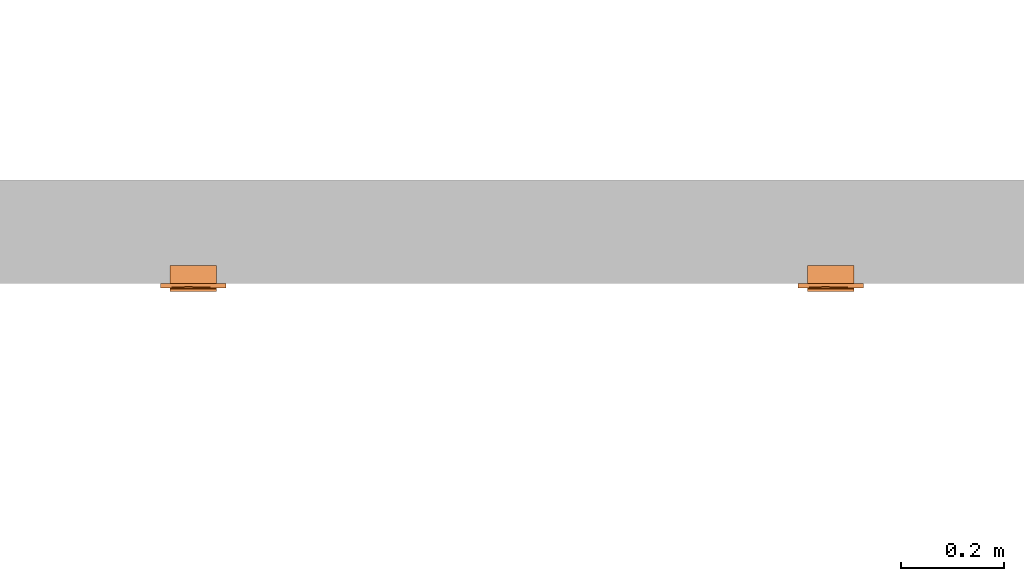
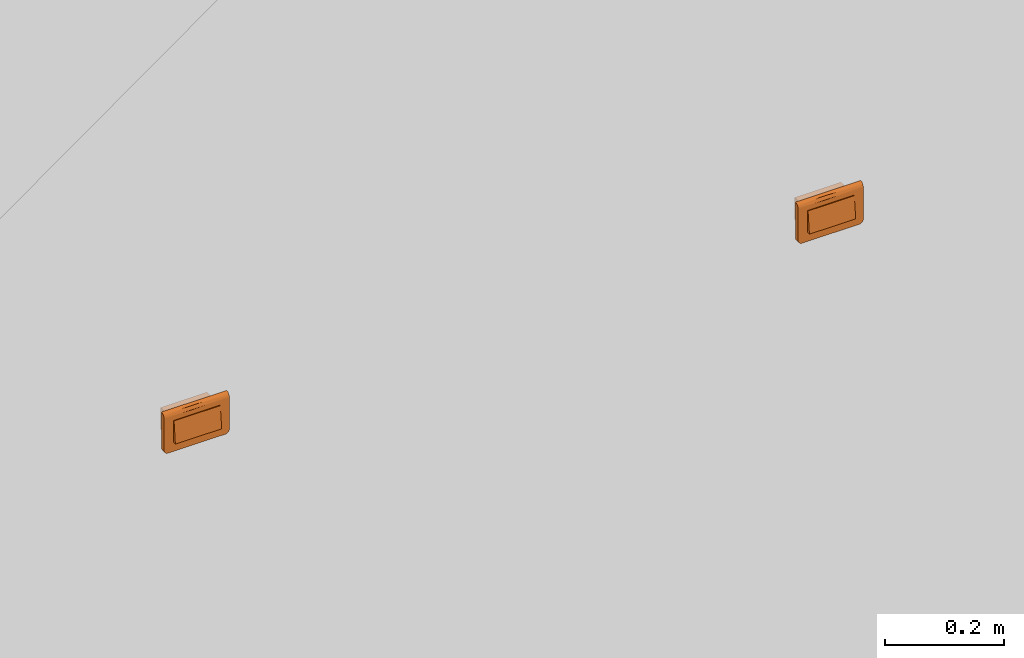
# One storey, part 147 of 197: 2 proxies.
"""IFC2X3 building model written with IfcOpenShell, lengths in metres."""

from ifc_helpers import new_model, entity, si_unit, converted_unit, direction, frame, origin, place, context, subcontext, project, spatial, faceted_brep, source, transform, mapped, material, material_list, type_object, type_shapes, element, save


model = new_model("IFC2X3")

# Units and contexts
model_context = context("Model", 3, precision=1e-05, world=origin(), true_north=direction((6.123031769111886e-17, 1.0)))
body_context = subcontext(model_context, "Body", "Model", "MODEL_VIEW")
ifc_project = project(units=[si_unit("LENGTHUNIT", "METRE"), converted_unit("PLANEANGLEUNIT", "DEGREE", entity("IfcPlaneAngleMeasure", 0.017453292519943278), si_unit("PLANEANGLEUNIT", "RADIAN"), dimensions=[0, 0, 0, 0, 0, 0, 0]), si_unit("AREAUNIT", "SQUARE_METRE")], contexts=[model_context])

# Site, building, storey
site_placement = place(None, origin())
site = spatial("IfcSite", under=ifc_project, at=site_placement, Name="Default", CompositionType="ELEMENT")
building_placement = place(site_placement, origin())
building = spatial("IfcBuilding", under=site, at=building_placement, CompositionType="ELEMENT")
storey_placement = place(building_placement, origin())
storey = spatial("IfcBuildingStorey", under=building, at=storey_placement, Name="Niveau 0", CompositionType="ELEMENT", Elevation=0.0)

# Proxies
ifc_material_1 = material(Name="<Unnamed>")
ifc_material_2 = material(Name="BETCE-DOIGT-BLANC")
ifc_material_3 = material(Name="BETCE-ENJOLIVEUR-BLANC")
ifc_material_list = material_list([ifc_material_1, ifc_material_2, ifc_material_3])
building_element_proxy_type_1 = type_object("IfcBuildingElementProxyType", Name="Tableau commande 1x4 modules encastré:3 SA + 1 BP", PredefinedType="NOTDEFINED", material=ifc_material_list)
shared_shape_1 = source(origin(), body_context, "Body", "Brep", [
    faceted_brep([(0.04499999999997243, 0.0, 0.022499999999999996), (0.04499999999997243, 0.03499999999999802, 0.022499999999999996), (0.02249999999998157, 0.03499999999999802, 0.022499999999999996), (0.02249999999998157, 0.0, 0.022499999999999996), (0.04499999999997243, 0.0, -0.022500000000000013), (0.02249999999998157, 0.0, -0.022500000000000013), (0.02249999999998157, 0.03499999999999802, -0.022500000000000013), (0.04499999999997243, 0.03499999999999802, -0.022500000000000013)], [[[0, 1, 2, 3]], [[4, 5, 6, 7]], [[1, 0, 4, 7]], [[2, 1, 7, 6]], [[3, 2, 6, 5]], [[0, 3, 5, 4]]]),
    faceted_brep([(0.02249999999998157, 0.0, 0.022499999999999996), (0.02249999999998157, 0.034999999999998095, 0.022499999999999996), (0.0, 0.034999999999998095, 0.022499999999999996), (0.0, 0.0, 0.022499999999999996), (0.02249999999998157, 0.0, -0.022500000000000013), (0.0, 0.0, -0.022500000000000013), (0.0, 0.034999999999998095, -0.022500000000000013), (0.02249999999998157, 0.034999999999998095, -0.022500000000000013)], [[[0, 1, 2, 3]], [[4, 5, 6, 7]], [[1, 0, 4, 7]], [[2, 1, 7, 6]], [[3, 2, 6, 5]], [[0, 3, 5, 4]]]),
    faceted_brep([(0.0, 0.0, 0.022499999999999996), (0.0, 0.034999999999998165, 0.022499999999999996), (-0.02250000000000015, 0.034999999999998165, 0.022499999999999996), (-0.02250000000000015, 0.0, 0.022499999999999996), (0.0, 0.0, -0.022500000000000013), (-0.02250000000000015, 0.0, -0.022500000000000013), (-0.02250000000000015, 0.034999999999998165, -0.022500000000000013), (0.0, 0.034999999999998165, -0.022500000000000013)], [[[0, 1, 2, 3]], [[4, 5, 6, 7]], [[1, 0, 4, 7]], [[2, 1, 7, 6]], [[3, 2, 6, 5]], [[0, 3, 5, 4]]]),
    faceted_brep([(-0.02250000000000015, 0.0, 0.022499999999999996), (-0.02250000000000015, 0.034999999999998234, 0.022499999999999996), (-0.044999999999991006, 0.034999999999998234, 0.022499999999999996), (-0.044999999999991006, 0.0, 0.022499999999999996), (-0.02250000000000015, 0.0, -0.022500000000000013), (-0.044999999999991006, 0.0, -0.022500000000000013), (-0.044999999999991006, 0.034999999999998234, -0.022500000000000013), (-0.02250000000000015, 0.034999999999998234, -0.022500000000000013)], [[[0, 1, 2, 3]], [[4, 5, 6, 7]], [[1, 0, 4, 7]], [[2, 1, 7, 6]], [[3, 2, 6, 5]], [[0, 3, 5, 4]]]),
    faceted_brep([(0.022500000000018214, -0.010500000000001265, 0.022499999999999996), (0.02250000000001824, -0.015000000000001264, -0.022500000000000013), (0.0450000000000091, -0.01500000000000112, -0.022500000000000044), (0.045000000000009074, -0.010500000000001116, 0.022499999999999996), (0.02250000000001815, 0.0, -0.022500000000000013), (0.02250000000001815, 0.0, 0.022499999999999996), (0.045000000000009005, 0.0, 0.022499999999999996), (0.045000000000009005, 0.0, -0.022500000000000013)], [[[0, 1, 2, 3]], [[4, 5, 6, 7]], [[5, 4, 1, 0]], [[6, 5, 0, 3]], [[7, 6, 3, 2]], [[4, 7, 2, 1]]]),
    faceted_brep([(-0.044999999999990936, -0.010500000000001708, 0.022500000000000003), (-0.044999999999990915, -0.015000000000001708, -0.022500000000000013), (-0.022500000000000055, -0.015000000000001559, -0.022499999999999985), (-0.022500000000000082, -0.01050000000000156, 0.022499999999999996), (-0.044999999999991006, 0.0, -0.022500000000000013), (-0.044999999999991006, 0.0, 0.022499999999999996), (-0.02250000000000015, 0.0, 0.022499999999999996), (-0.02250000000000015, 0.0, -0.022500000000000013)], [[[0, 1, 2, 3]], [[4, 5, 6, 7]], [[5, 4, 1, 0]], [[6, 5, 0, 3]], [[7, 6, 3, 2]], [[4, 7, 2, 1]]]),
    faceted_brep([(0.0, -0.010500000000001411, 0.022500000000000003), (0.0, -0.015000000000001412, -0.022500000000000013), (0.022499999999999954, -0.015000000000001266, -0.022500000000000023), (0.022499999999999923, -0.010500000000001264, 0.022499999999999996), (0.0, 0.0, -0.022500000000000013), (0.0, 0.0, 0.022499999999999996), (0.02249999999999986, 0.0, 0.022499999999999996), (0.02249999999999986, 0.0, -0.022500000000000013)], [[[0, 1, 2, 3]], [[4, 5, 6, 7]], [[5, 4, 1, 0]], [[6, 5, 0, 3]], [[7, 6, 3, 2]], [[4, 7, 2, 1]]]),
    faceted_brep([(-0.02250000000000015, 0.0, -0.022500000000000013), (-0.02250000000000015, 0.0, 0.022499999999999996), (0.0, 0.0, 0.022499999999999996), (0.0, 0.0, -0.022500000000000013), (-0.022500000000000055, -0.01500000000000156, -0.022500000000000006), (-0.022500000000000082, -0.010500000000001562, 0.022499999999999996), (0.0, -0.010500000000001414, 0.022499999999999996), (0.0, -0.015000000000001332, -0.022500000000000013)], [[[0, 1, 2, 3]], [[1, 0, 4, 5]], [[2, 1, 5, 6]], [[3, 2, 6, 7]], [[0, 3, 7, 4]], [[5, 4, 7, 6]]]),
    faceted_brep([(0.06350000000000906, -0.009000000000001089, -0.03299999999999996), (0.06350000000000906, -0.009000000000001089, 0.031999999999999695), (0.045000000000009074, -0.009000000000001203, -0.022500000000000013), (0.055500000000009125, -0.009000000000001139, -0.04099999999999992), (0.05757055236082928, -0.009000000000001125, -0.04072740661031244), (0.059500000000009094, -0.009000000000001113, -0.0399282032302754), (0.061156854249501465, -0.009000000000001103, -0.03865685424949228), (0.06322740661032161, -0.00900000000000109, -0.03507055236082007), (0.04500000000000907, -0.009000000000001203, 0.022499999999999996), (-0.04499999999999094, -0.009000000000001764, 0.022499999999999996), (-0.011124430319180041, -0.009000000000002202, 0.03199999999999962), (-0.06349999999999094, -0.009000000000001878, 0.031999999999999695), (-0.04499999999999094, -0.009000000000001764, -0.022500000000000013), (-0.06349999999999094, -0.009000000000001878, -0.032999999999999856), (-0.055499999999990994, -0.00900000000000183, -0.04099999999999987), (-0.05757055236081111, -0.009000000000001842, -0.040727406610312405), (-0.059499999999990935, -0.009000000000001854, -0.039928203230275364), (-0.06115685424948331, -0.009000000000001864, -0.038656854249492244), (-0.06322740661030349, -0.009000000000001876, -0.035070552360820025), (-0.06242820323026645, -0.009000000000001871, -0.03699999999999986), (0.062428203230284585, -0.009000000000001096, -0.036999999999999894), (-0.063499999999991, 0.0, -0.03299999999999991), (-0.063499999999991, 0.0, 0.04100000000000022), (-0.044999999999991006, 0.0, 0.022499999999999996), (-0.044999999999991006, 0.0, -0.022500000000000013), (-0.05549999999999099, 0.0, -0.04099999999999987), (-0.05757055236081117, 0.0, -0.040727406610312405), (-0.05949999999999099, 0.0, -0.039928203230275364), (-0.06322740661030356, 0.0, -0.035070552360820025), (0.045000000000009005, 0.0, 0.022499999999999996), (0.011124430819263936, 0.0, 0.041000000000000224), (0.063500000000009, 0.0, 0.041000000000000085), (0.06350000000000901, 0.0, -0.03299999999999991), (0.04500000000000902, 0.0, -0.022500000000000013), (0.05550000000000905, 0.0, -0.040999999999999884), (0.057570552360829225, 0.0, -0.04072740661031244), (0.05950000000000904, 0.0, -0.0399282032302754), (0.06322740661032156, 0.0, -0.03507055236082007), (0.06115685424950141, 0.0, -0.03865685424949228), (0.06242820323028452, 0.0, -0.036999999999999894), (-0.06115685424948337, 0.0, -0.038656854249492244), (-0.062428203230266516, 0.0, -0.03699999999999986), (0.06350000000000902, -0.002329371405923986, 0.04069333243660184), (0.06350000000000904, -0.004500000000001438, 0.03979422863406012), (0.06350000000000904, -0.006363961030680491, 0.038363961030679), (0.06350000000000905, -0.007794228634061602, 0.03649999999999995), (0.06350000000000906, -0.008693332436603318, 0.0343293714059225), (-0.06349999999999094, -0.008693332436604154, 0.03432937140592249), (-0.06349999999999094, -0.0077942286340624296, 0.03649999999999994), (-0.06349999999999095, -0.006363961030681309, 0.038363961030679), (-0.06349999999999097, -0.004500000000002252, 0.039794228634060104), (-0.06349999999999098, -0.002329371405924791, 0.04069333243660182), (-0.010857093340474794, -0.006120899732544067, 0.03859807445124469)], [[[0, 1, 2]], [[3, 0, 2]], [[0, 3, 4]], [[0, 4, 5]], [[5, 6, 0]], [[7, 0, 6]], [[2, 1, 8]], [[1, 9, 8]], [[9, 1, 10]], [[9, 10, 11]], [[12, 9, 11]], [[13, 12, 11]], [[14, 12, 13]], [[14, 13, 15]], [[16, 15, 13]], [[13, 17, 16]], [[17, 13, 18]], [[17, 18, 19]], [[12, 14, 3]], [[2, 12, 3]], [[20, 7, 6]], [[21, 22, 23]], [[24, 21, 23]], [[25, 21, 24]], [[21, 25, 26]], [[21, 26, 27]], [[28, 21, 27]], [[22, 29, 23]], [[29, 22, 30]], [[29, 30, 31]], [[32, 29, 31]], [[33, 29, 32]], [[34, 33, 32]], [[34, 32, 35]], [[36, 35, 32]], [[36, 32, 37]], [[37, 38, 36]], [[38, 37, 39]], [[33, 34, 25]], [[24, 33, 25]], [[27, 40, 28]], [[41, 28, 40]], [[1, 0, 32, 31, 42, 43, 44, 45, 46]], [[37, 32, 0, 7]], [[39, 37, 7, 20]], [[38, 39, 20, 6]], [[36, 38, 6, 5]], [[35, 36, 5, 4]], [[34, 35, 4, 3]], [[25, 34, 3, 14]], [[26, 25, 14, 15]], [[27, 26, 15, 16]], [[40, 27, 16, 17]], [[41, 40, 17, 19]], [[28, 41, 19, 18]], [[21, 28, 18, 13]], [[22, 21, 13, 11, 47, 48, 49, 50, 51]], [[24, 23, 9, 12]], [[33, 24, 12, 2]], [[29, 33, 2, 8]], [[23, 29, 8, 9]], [[52, 10, 45]], [[47, 11, 10]], [[1, 46, 10]], [[44, 52, 45]], [[46, 45, 10]], [[50, 52, 51]], [[48, 47, 10]], [[30, 52, 43]], [[48, 52, 49]], [[42, 31, 30]], [[30, 22, 51]], [[48, 10, 52]], [[30, 43, 42]], [[44, 43, 52]], [[52, 50, 49]], [[52, 30, 51]]]),
])
type_shapes(building_element_proxy_type_1, [shared_shape_1])
proxy_1_placement = place(storey_placement, frame((-372.21277966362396, 122.781355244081, 1.1)))
element("IfcBuildingElementProxy", 1, at=proxy_1_placement, inside=storey, type_object=building_element_proxy_type_1, material=ifc_material_list, Name="Tableau commande 1x4 modules encastré:3 SA + 1 BP", ObjectType="Tableau commande 1x4 modules encastré:3 SA + 1 BP", context=body_context, shape_type="MappedRepresentation", body=[
    mapped(shared_shape_1, transform((0.0, 0.0, 0.0), scale=1.0)),
])
building_element_proxy_type_2 = type_object("IfcBuildingElementProxyType", Name="Tableau commande 1x4 modules encastré:3 VV + 1 BP", PredefinedType="NOTDEFINED", material=ifc_material_list)
shared_shape_2 = source(origin(), body_context, "Body", "Brep", [
    faceted_brep([(0.04499999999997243, 0.0, 0.022499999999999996), (0.04499999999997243, 0.03499999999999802, 0.022499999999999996), (0.02249999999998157, 0.03499999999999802, 0.022499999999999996), (0.02249999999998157, 0.0, 0.022499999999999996), (0.04499999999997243, 0.0, -0.022500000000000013), (0.02249999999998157, 0.0, -0.022500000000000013), (0.02249999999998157, 0.03499999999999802, -0.022500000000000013), (0.04499999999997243, 0.03499999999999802, -0.022500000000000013)], [[[0, 1, 2, 3]], [[4, 5, 6, 7]], [[1, 0, 4, 7]], [[2, 1, 7, 6]], [[3, 2, 6, 5]], [[0, 3, 5, 4]]]),
    faceted_brep([(0.02249999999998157, 0.0, 0.022499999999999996), (0.02249999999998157, 0.034999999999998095, 0.022499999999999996), (0.0, 0.034999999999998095, 0.022499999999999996), (0.0, 0.0, 0.022499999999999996), (0.02249999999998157, 0.0, -0.022500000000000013), (0.0, 0.0, -0.022500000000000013), (0.0, 0.034999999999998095, -0.022500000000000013), (0.02249999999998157, 0.034999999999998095, -0.022500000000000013)], [[[0, 1, 2, 3]], [[4, 5, 6, 7]], [[1, 0, 4, 7]], [[2, 1, 7, 6]], [[3, 2, 6, 5]], [[0, 3, 5, 4]]]),
    faceted_brep([(0.0, 0.0, 0.022499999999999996), (0.0, 0.034999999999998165, 0.022499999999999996), (-0.02250000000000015, 0.034999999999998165, 0.022499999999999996), (-0.02250000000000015, 0.0, 0.022499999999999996), (0.0, 0.0, -0.022500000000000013), (-0.02250000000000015, 0.0, -0.022500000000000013), (-0.02250000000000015, 0.034999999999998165, -0.022500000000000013), (0.0, 0.034999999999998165, -0.022500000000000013)], [[[0, 1, 2, 3]], [[4, 5, 6, 7]], [[1, 0, 4, 7]], [[2, 1, 7, 6]], [[3, 2, 6, 5]], [[0, 3, 5, 4]]]),
    faceted_brep([(-0.02250000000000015, 0.0, 0.022499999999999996), (-0.02250000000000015, 0.034999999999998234, 0.022499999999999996), (-0.044999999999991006, 0.034999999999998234, 0.022499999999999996), (-0.044999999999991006, 0.0, 0.022499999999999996), (-0.02250000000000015, 0.0, -0.022500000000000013), (-0.044999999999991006, 0.0, -0.022500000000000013), (-0.044999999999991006, 0.034999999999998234, -0.022500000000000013), (-0.02250000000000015, 0.034999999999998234, -0.022500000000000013)], [[[0, 1, 2, 3]], [[4, 5, 6, 7]], [[1, 0, 4, 7]], [[2, 1, 7, 6]], [[3, 2, 6, 5]], [[0, 3, 5, 4]]]),
    faceted_brep([(0.022500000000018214, -0.010500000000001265, 0.022499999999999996), (0.02250000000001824, -0.015000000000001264, -0.022500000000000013), (0.0450000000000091, -0.01500000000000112, -0.022500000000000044), (0.045000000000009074, -0.010500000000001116, 0.022499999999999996), (0.02250000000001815, 0.0, -0.022500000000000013), (0.02250000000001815, 0.0, 0.022499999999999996), (0.045000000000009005, 0.0, 0.022499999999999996), (0.045000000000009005, 0.0, -0.022500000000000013)], [[[0, 1, 2, 3]], [[4, 5, 6, 7]], [[5, 4, 1, 0]], [[6, 5, 0, 3]], [[7, 6, 3, 2]], [[4, 7, 2, 1]]]),
    faceted_brep([(-0.044999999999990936, -0.010500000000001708, 0.022500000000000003), (-0.044999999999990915, -0.015000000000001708, -0.022500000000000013), (-0.022500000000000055, -0.015000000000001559, -0.022499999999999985), (-0.022500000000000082, -0.01050000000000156, 0.022499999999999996), (-0.044999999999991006, 0.0, -0.022500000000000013), (-0.044999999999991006, 0.0, 0.022499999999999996), (-0.02250000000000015, 0.0, 0.022499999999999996), (-0.02250000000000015, 0.0, -0.022500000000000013)], [[[0, 1, 2, 3]], [[4, 5, 6, 7]], [[5, 4, 1, 0]], [[6, 5, 0, 3]], [[7, 6, 3, 2]], [[4, 7, 2, 1]]]),
    faceted_brep([(0.0, -0.010500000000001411, 0.022500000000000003), (0.0, -0.015000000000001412, -0.022500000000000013), (0.022499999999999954, -0.015000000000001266, -0.022500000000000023), (0.022499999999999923, -0.010500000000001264, 0.022499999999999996), (0.0, 0.0, -0.022500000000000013), (0.0, 0.0, 0.022499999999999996), (0.02249999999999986, 0.0, 0.022499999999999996), (0.02249999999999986, 0.0, -0.022500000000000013)], [[[0, 1, 2, 3]], [[4, 5, 6, 7]], [[5, 4, 1, 0]], [[6, 5, 0, 3]], [[7, 6, 3, 2]], [[4, 7, 2, 1]]]),
    faceted_brep([(-0.02250000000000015, 0.0, -0.022500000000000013), (-0.02250000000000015, 0.0, 0.022499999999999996), (0.0, 0.0, 0.022499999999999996), (0.0, 0.0, -0.022500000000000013), (-0.022500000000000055, -0.01500000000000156, -0.022500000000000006), (-0.022500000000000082, -0.010500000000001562, 0.022499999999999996), (0.0, -0.010500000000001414, 0.022499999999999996), (0.0, -0.015000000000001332, -0.022500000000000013)], [[[0, 1, 2, 3]], [[1, 0, 4, 5]], [[2, 1, 5, 6]], [[3, 2, 6, 7]], [[0, 3, 7, 4]], [[5, 4, 7, 6]]]),
    faceted_brep([(0.06350000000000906, -0.009000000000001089, -0.03299999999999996), (0.06350000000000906, -0.009000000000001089, 0.031999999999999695), (0.045000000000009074, -0.009000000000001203, -0.022500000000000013), (0.055500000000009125, -0.009000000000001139, -0.04099999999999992), (0.05757055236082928, -0.009000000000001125, -0.04072740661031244), (0.059500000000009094, -0.009000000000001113, -0.0399282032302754), (0.061156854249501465, -0.009000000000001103, -0.03865685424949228), (0.06322740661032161, -0.00900000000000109, -0.03507055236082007), (0.04500000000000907, -0.009000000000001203, 0.022499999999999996), (-0.04499999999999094, -0.009000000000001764, 0.022499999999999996), (-0.011124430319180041, -0.009000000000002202, 0.03199999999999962), (-0.06349999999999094, -0.009000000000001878, 0.031999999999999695), (-0.04499999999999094, -0.009000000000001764, -0.022500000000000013), (-0.06349999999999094, -0.009000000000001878, -0.032999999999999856), (-0.055499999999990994, -0.00900000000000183, -0.04099999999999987), (-0.05757055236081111, -0.009000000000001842, -0.040727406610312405), (-0.059499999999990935, -0.009000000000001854, -0.039928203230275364), (-0.06115685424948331, -0.009000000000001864, -0.038656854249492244), (-0.06322740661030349, -0.009000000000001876, -0.035070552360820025), (-0.06242820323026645, -0.009000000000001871, -0.03699999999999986), (0.062428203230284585, -0.009000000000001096, -0.036999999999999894), (-0.063499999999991, 0.0, -0.03299999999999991), (-0.063499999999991, 0.0, 0.04100000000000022), (-0.044999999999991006, 0.0, 0.022499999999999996), (-0.044999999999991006, 0.0, -0.022500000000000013), (-0.05549999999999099, 0.0, -0.04099999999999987), (-0.05757055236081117, 0.0, -0.040727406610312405), (-0.05949999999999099, 0.0, -0.039928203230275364), (-0.06322740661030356, 0.0, -0.035070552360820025), (0.045000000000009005, 0.0, 0.022499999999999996), (0.011124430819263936, 0.0, 0.041000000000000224), (0.063500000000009, 0.0, 0.041000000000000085), (0.06350000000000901, 0.0, -0.03299999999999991), (0.04500000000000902, 0.0, -0.022500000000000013), (0.05550000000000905, 0.0, -0.040999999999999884), (0.057570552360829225, 0.0, -0.04072740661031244), (0.05950000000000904, 0.0, -0.0399282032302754), (0.06322740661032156, 0.0, -0.03507055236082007), (0.06115685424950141, 0.0, -0.03865685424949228), (0.06242820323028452, 0.0, -0.036999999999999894), (-0.06115685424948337, 0.0, -0.038656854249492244), (-0.062428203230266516, 0.0, -0.03699999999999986), (0.06350000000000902, -0.002329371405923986, 0.04069333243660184), (0.06350000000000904, -0.004500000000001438, 0.03979422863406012), (0.06350000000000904, -0.006363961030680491, 0.038363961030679), (0.06350000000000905, -0.007794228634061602, 0.03649999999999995), (0.06350000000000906, -0.008693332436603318, 0.0343293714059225), (-0.06349999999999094, -0.008693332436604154, 0.03432937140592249), (-0.06349999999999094, -0.0077942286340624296, 0.03649999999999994), (-0.06349999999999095, -0.006363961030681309, 0.038363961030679), (-0.06349999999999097, -0.004500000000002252, 0.039794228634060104), (-0.06349999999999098, -0.002329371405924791, 0.04069333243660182), (-0.010857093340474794, -0.006120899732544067, 0.03859807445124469)], [[[0, 1, 2]], [[3, 0, 2]], [[0, 3, 4]], [[0, 4, 5]], [[5, 6, 0]], [[7, 0, 6]], [[2, 1, 8]], [[1, 9, 8]], [[9, 1, 10]], [[9, 10, 11]], [[12, 9, 11]], [[13, 12, 11]], [[14, 12, 13]], [[14, 13, 15]], [[16, 15, 13]], [[13, 17, 16]], [[17, 13, 18]], [[17, 18, 19]], [[12, 14, 3]], [[2, 12, 3]], [[20, 7, 6]], [[21, 22, 23]], [[24, 21, 23]], [[25, 21, 24]], [[21, 25, 26]], [[21, 26, 27]], [[28, 21, 27]], [[22, 29, 23]], [[29, 22, 30]], [[29, 30, 31]], [[32, 29, 31]], [[33, 29, 32]], [[34, 33, 32]], [[34, 32, 35]], [[36, 35, 32]], [[36, 32, 37]], [[37, 38, 36]], [[38, 37, 39]], [[33, 34, 25]], [[24, 33, 25]], [[27, 40, 28]], [[41, 28, 40]], [[1, 0, 32, 31, 42, 43, 44, 45, 46]], [[37, 32, 0, 7]], [[39, 37, 7, 20]], [[38, 39, 20, 6]], [[36, 38, 6, 5]], [[35, 36, 5, 4]], [[34, 35, 4, 3]], [[25, 34, 3, 14]], [[26, 25, 14, 15]], [[27, 26, 15, 16]], [[40, 27, 16, 17]], [[41, 40, 17, 19]], [[28, 41, 19, 18]], [[21, 28, 18, 13]], [[22, 21, 13, 11, 47, 48, 49, 50, 51]], [[24, 23, 9, 12]], [[33, 24, 12, 2]], [[29, 33, 2, 8]], [[23, 29, 8, 9]], [[52, 10, 45]], [[47, 11, 10]], [[1, 46, 10]], [[44, 52, 45]], [[46, 45, 10]], [[50, 52, 51]], [[48, 47, 10]], [[30, 52, 43]], [[48, 52, 49]], [[42, 31, 30]], [[30, 22, 51]], [[48, 10, 52]], [[30, 43, 42]], [[44, 43, 52]], [[52, 50, 49]], [[52, 30, 51]]]),
])
type_shapes(building_element_proxy_type_2, [shared_shape_2])
proxy_2_placement = place(storey_placement, frame((-370.97977966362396, 122.781355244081, 1.1)))
element("IfcBuildingElementProxy", 2, at=proxy_2_placement, inside=storey, type_object=building_element_proxy_type_2, material=ifc_material_list, Name="Tableau commande 1x4 modules encastré:3 VV + 1 BP", ObjectType="Tableau commande 1x4 modules encastré:3 VV + 1 BP", context=body_context, shape_type="MappedRepresentation", body=[
    mapped(shared_shape_2, transform((0.0, 0.0, 0.0), scale=1.0)),
])

save(model, "model.ifc")
